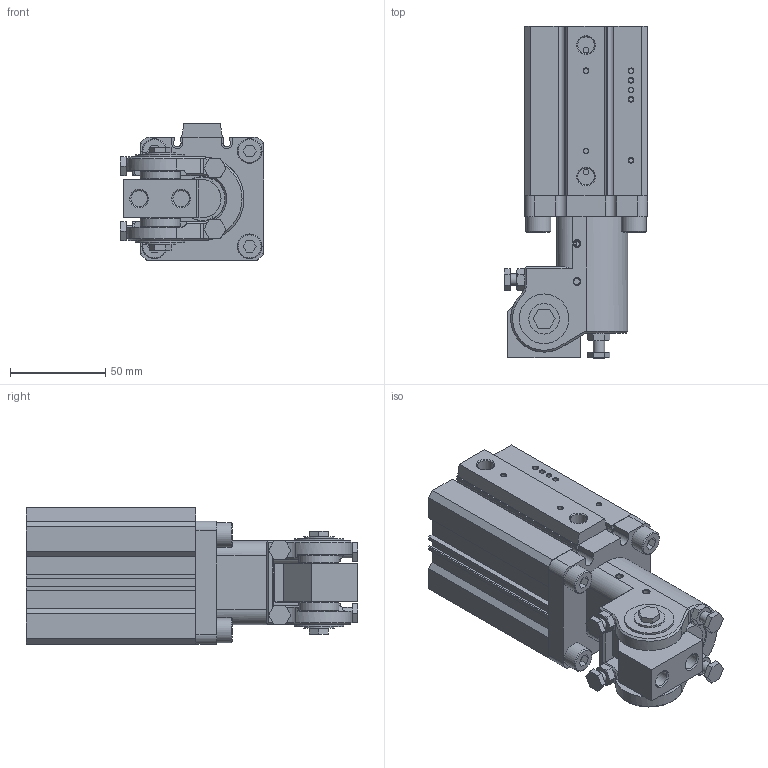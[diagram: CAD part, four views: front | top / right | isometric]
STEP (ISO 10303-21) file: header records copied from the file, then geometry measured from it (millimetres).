
FILE_DESCRIPTION(/* description */ (''),/* implementation_level */ '2;1');
FILE_NAME(/* name */ '_model1.stp',/* time_stamp */ '2023-05-31T08:30:21+08:00',/* author */ (''),/* organization */ (''),/* preprocessor_version */ 'ST-DEVELOPER v14',/* originating_system */ 'SIEMENS PLM Software NX 8.0',/* authorisation */ '');
FILE_SCHEMA (('AP203_CONFIGURATION_CONTROLLED_3D_DESIGN_OF_MECHANICAL_PARTS_AND_ASSEMBLIES_MIM_LF { 1 0 10303 403 2 1 2}'));
Length unit declared in the file: millimetre
Products named in the file (1): Admi0FF02E9Cg4e7
Bounding box: 75 x 174 x 71.5 mm (x, y, z)
Volume: 505813.1 mm3; surface area: 112466.7 mm2
Topology: 28 solids, 28 shells, 562 faces, 1287 edges, 825 vertices
Faces by surface type: plane 303, cone 129, cylinder 122, bspline 6, torus 2
Full cylindrical faces by diameter (mm): 2 x4, 2.5 x7, 3 x2, 3.3 x8, 4.2 x4, 5 x10, 6 x11, 6.2 x1, 6.5 x4, 8 x4, 8.5 x2, 8.6 x6, 12 x8, 13 x4, 16 x2, 20 x1, 21 x2, 22.8 x1, 23 x1, 24 x1, 26 x2, 28 x1, 38 x2, 38.5 x1, 52 x2, 54 x2
Entity records: 16117 total; most frequent: CARTESIAN_POINT 4185, DIRECTION 2406, ORIENTED_EDGE 2152, EDGE_CURVE 1076, AXIS2_PLACEMENT_3D 916, EDGE_LOOP 842, VERTEX_POINT 774, LINE 574
